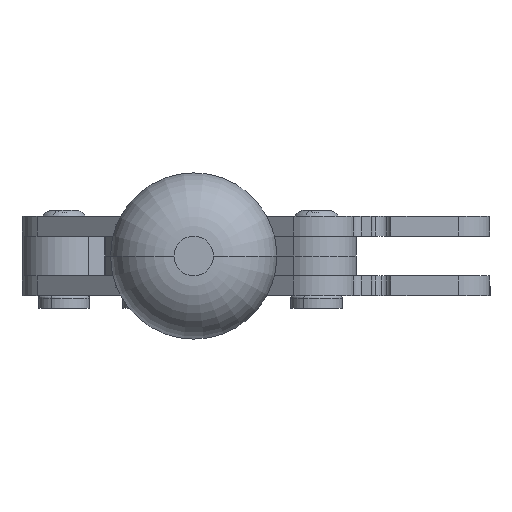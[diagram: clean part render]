
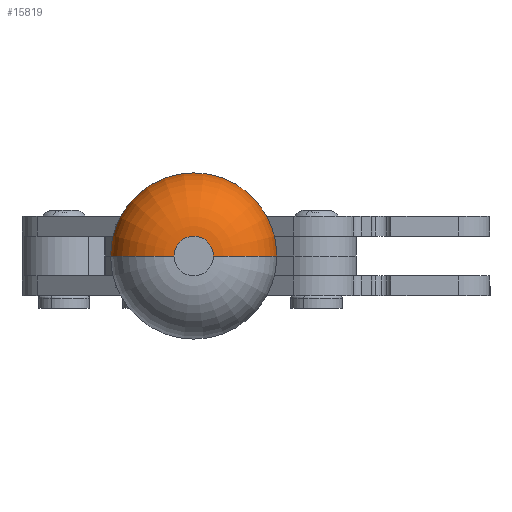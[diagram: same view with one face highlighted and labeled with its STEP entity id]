
A CAD part, left-side view. The second image highlights one B-rep face of the part: STEP entity #15819.
In plain terms, the highlighted toroidal (fillet/blend) face has major radius 2.495 mm and minor radius 8 mm.
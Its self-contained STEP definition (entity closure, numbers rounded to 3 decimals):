
#98 = CIRCLE ( 'NONE', #7955, 2.495 ) ;
#1065 = CIRCLE ( 'NONE', #11840, 8. ) ;
#1295 = CARTESIAN_POINT ( 'NONE',  ( -2.495, 0., 0. ) ) ;
#1607 = VERTEX_POINT ( 'NONE', #1295 ) ;
#1832 = DIRECTION ( 'NONE',  ( 0., 1., 0. ) ) ;
#2239 = DIRECTION ( 'NONE',  ( 0., 0., -1. ) ) ;
#3155 = CARTESIAN_POINT ( 'NONE',  ( 10.491, 0., 8.251 ) ) ;
#3677 = AXIS2_PLACEMENT_3D ( 'NONE', #25258, #1832, #7522 ) ;
#5789 = DIRECTION ( 'NONE',  ( 1., 0., 0. ) ) ;
#5919 = CIRCLE ( 'NONE', #24118, 10.491 ) ;
#6423 = DIRECTION ( 'NONE',  ( 1., 0., 0. ) ) ;
#7522 = DIRECTION ( 'NONE',  ( -1., 0., 0. ) ) ;
#7955 = AXIS2_PLACEMENT_3D ( 'NONE', #10064, #11887, #5789 ) ;
#8283 = CARTESIAN_POINT ( 'NONE',  ( 0., 0., 8. ) ) ;
#8401 = VERTEX_POINT ( 'NONE', #3155 ) ;
#8786 = EDGE_LOOP ( 'NONE', ( #18971, #13108, #19740, #9025 ) ) ;
#9025 = ORIENTED_EDGE ( 'NONE', *, *, #10370, .F. ) ;
#9767 = CARTESIAN_POINT ( 'NONE',  ( 2.495, 0., 8. ) ) ;
#10064 = CARTESIAN_POINT ( 'NONE',  ( 0., 0., 0. ) ) ;
#10370 = EDGE_CURVE ( 'NONE', #23801, #8401, #5919, .T. ) ;
#11840 = AXIS2_PLACEMENT_3D ( 'NONE', #9767, #13919, #2239 ) ;
#11887 = DIRECTION ( 'NONE',  ( 0., 0., -1. ) ) ;
#12567 = DIRECTION ( 'NONE',  ( 0., 0., 1. ) ) ;
#12695 = FACE_OUTER_BOUND ( 'NONE', #8786, .T. ) ;
#13108 = ORIENTED_EDGE ( 'NONE', *, *, #24680, .F. ) ;
#13919 = DIRECTION ( 'NONE',  ( 0., -1., 0. ) ) ;
#14227 = DIRECTION ( 'NONE',  ( 0., 0., 1. ) ) ;
#14511 = CARTESIAN_POINT ( 'NONE',  ( 2.495, 0., 0. ) ) ;
#15819 = ADVANCED_FACE ( 'NONE', ( #12695 ), #16336, .T. ) ;
#16160 = CARTESIAN_POINT ( 'NONE',  ( 0., 0., 8.251 ) ) ;
#16336 = TOROIDAL_SURFACE ( 'NONE', #19662, 2.495, 8. ) ;
#16397 = EDGE_CURVE ( 'NONE', #23104, #8401, #1065, .T. ) ;
#18392 = DIRECTION ( 'NONE',  ( 1., 0., 0. ) ) ;
#18971 = ORIENTED_EDGE ( 'NONE', *, *, #22838, .F. ) ;
#19662 = AXIS2_PLACEMENT_3D ( 'NONE', #8283, #12567, #18392 ) ;
#19740 = ORIENTED_EDGE ( 'NONE', *, *, #16397, .T. ) ;
#22838 = EDGE_CURVE ( 'NONE', #1607, #23801, #25586, .T. ) ;
#23104 = VERTEX_POINT ( 'NONE', #14511 ) ;
#23801 = VERTEX_POINT ( 'NONE', #24274 ) ;
#24118 = AXIS2_PLACEMENT_3D ( 'NONE', #16160, #14227, #6423 ) ;
#24274 = CARTESIAN_POINT ( 'NONE',  ( -10.491, 0., 8.251 ) ) ;
#24680 = EDGE_CURVE ( 'NONE', #23104, #1607, #98, .T. ) ;
#25258 = CARTESIAN_POINT ( 'NONE',  ( -2.495, 0., 8. ) ) ;
#25586 = CIRCLE ( 'NONE', #3677, 8. ) ;
